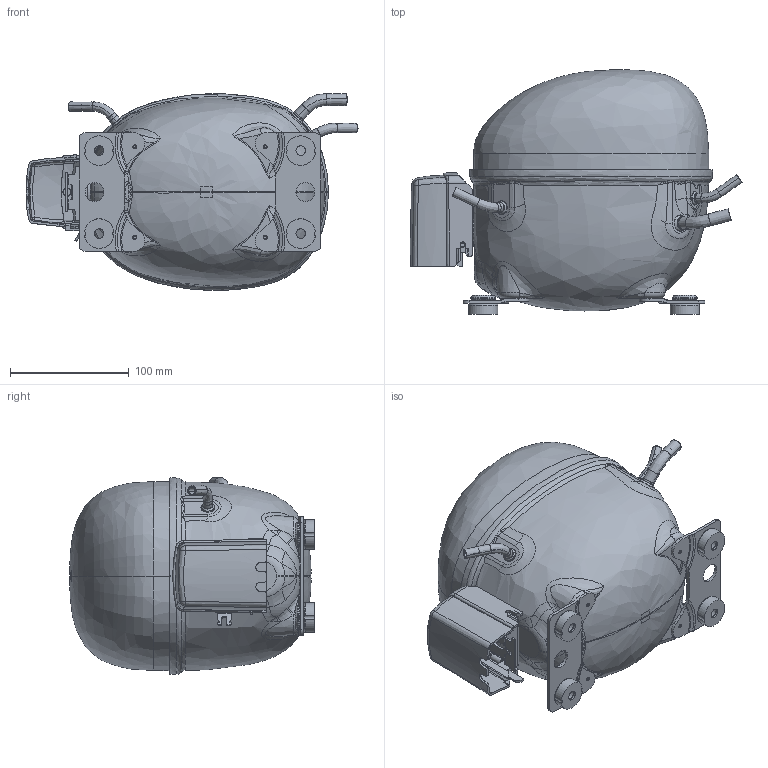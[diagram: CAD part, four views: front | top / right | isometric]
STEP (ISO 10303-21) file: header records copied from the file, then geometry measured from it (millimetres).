
FILE_DESCRIPTION((''),'2;1');
FILE_NAME('103F4163_103F4311_103F4282_ASM','2019-01-16T',('U244840'),(''),'CREO PARAMETRIC BY PTC INC, 2015380','CREO PARAMETRIC BY PTC INC, 2015380','');
FILE_SCHEMA(('CONFIG_CONTROL_DESIGN'));
Products named in the file (15): 103F4433_PS; 103F4572; 117-3617_BODY; 117-3617_PINS; 117-3617_GLASS_FUSED; 117-3617_ASM; 103N0480; 102B1857_BENT_PS_AF2; 103F4949_BENT_PS_AF1; 102B1978_BENT_PS_AF1; 103F4433_PS_BENT_103F4282_AF0_ASM; 103F4311; 103N2011; 118-3661; 103F4163_103F4311_103F4282_ASM
Assembly tree (22 placements, depth 4):
  103F4163_103F4311_103F4282_ASM
    103F4433_PS_BENT_103F4282_AF0_ASM
      103F4433_PS
      103F4572  x2
      117-3617_ASM
        117-3617_BODY
        117-3617_PINS  x3
        117-3617_GLASS_FUSED  x3
      103N0480
      102B1857_BENT_PS_AF2
      103F4949_BENT_PS_AF1
      102B1978_BENT_PS_AF1
    103F4311
    103N2011
    118-3661  x4
Bounding box: 280.12 x 206.3 x 166.06 mm (x, y, z)
Volume: 479400.8 mm3; surface area: 349083.2 mm2
Topology: 20 solids, 20 shells, 1176 faces, 2919 edges, 1773 vertices
Faces by surface type: bspline 322, cylinder 261, plane 251, torus 151, cone 111, extrusion 35, sphere 29, revolution 16
Entity records: 57013 total; most frequent: CARTESIAN_POINT 35206, ORIENTED_EDGE 4992, DIRECTION 3752, EDGE_CURVE 2496, VERTEX_POINT 1535, AXIS2_PLACEMENT_3D 1458, EDGE_LOOP 1049, FACE_OUTER_BOUND 998
